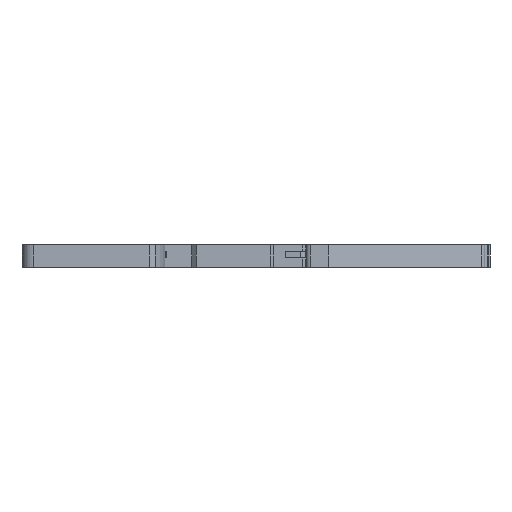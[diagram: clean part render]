
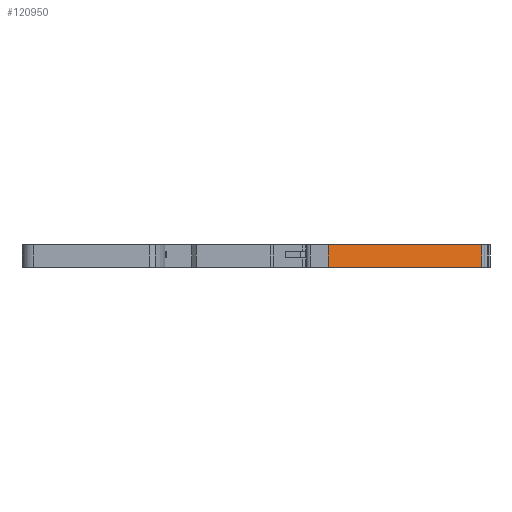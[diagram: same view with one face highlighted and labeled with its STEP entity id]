
A CAD part, front view. The second image highlights one B-rep face of the part: STEP entity #120950.
In plain terms, the highlighted planar face has unit normal (0.326, -0.946, 0).
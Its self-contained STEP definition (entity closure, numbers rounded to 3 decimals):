
#15200=CARTESIAN_POINT('',(56.04,7.265,0.));
#15210=VERTEX_POINT('',#15200);
#15240=CARTESIAN_POINT('',(56.745,7.508,0.));
#15250=DIRECTION('',(-0.946,-0.326,0.));
#15260=VECTOR('',#15250,1.);
#15270=LINE('',#15240,#15260);
#15280=CARTESIAN_POINT('',(21.,-4.8,0.));
#15290=VERTEX_POINT('',#15280);
#15300=EDGE_CURVE('',#15210,#15290,#15270,.T.);
#117560=CARTESIAN_POINT('',(21.,-4.8,-5.2));
#117570=VERTEX_POINT('',#117560);
#117600=CARTESIAN_POINT('',(56.745,7.508,-5.2));
#117610=DIRECTION('',(-0.946,-0.326,0.));
#117620=VECTOR('',#117610,1.);
#117630=LINE('',#117600,#117620);
#117640=CARTESIAN_POINT('',(56.04,7.265,-5.2));
#117650=VERTEX_POINT('',#117640);
#117660=EDGE_CURVE('',#117650,#117570,#117630,.T.);
#120680=CARTESIAN_POINT('',(21.,-4.8,0.));
#120690=DIRECTION('',(-0.,-0.,-1.));
#120700=VECTOR('',#120690,1.);
#120710=LINE('',#120680,#120700);
#120720=EDGE_CURVE('',#15290,#117570,#120710,.T.);
#120790=CARTESIAN_POINT('',(56.04,7.265,0.));
#120800=DIRECTION('',(-0.326,0.946,0.));
#120810=DIRECTION('',(0.946,0.326,0.));
#120820=AXIS2_PLACEMENT_3D('',#120790,#120800,#120810);
#120830=PLANE('',#120820);
#120840=ORIENTED_EDGE('',*,*,#15300,.T.);
#120850=CARTESIAN_POINT('',(56.04,7.265,0.));
#120860=DIRECTION('',(-0.,-0.,-1.));
#120870=VECTOR('',#120860,1.);
#120880=LINE('',#120850,#120870);
#120890=EDGE_CURVE('',#15210,#117650,#120880,.T.);
#120900=ORIENTED_EDGE('',*,*,#120890,.F.);
#120910=ORIENTED_EDGE('',*,*,#117660,.F.);
#120920=ORIENTED_EDGE('',*,*,#120720,.T.);
#120930=EDGE_LOOP('',(#120920,#120910,#120900,#120840));
#120940=FACE_OUTER_BOUND('',#120930,.T.);
#120950=ADVANCED_FACE('',(#120940),#120830,.F.);
